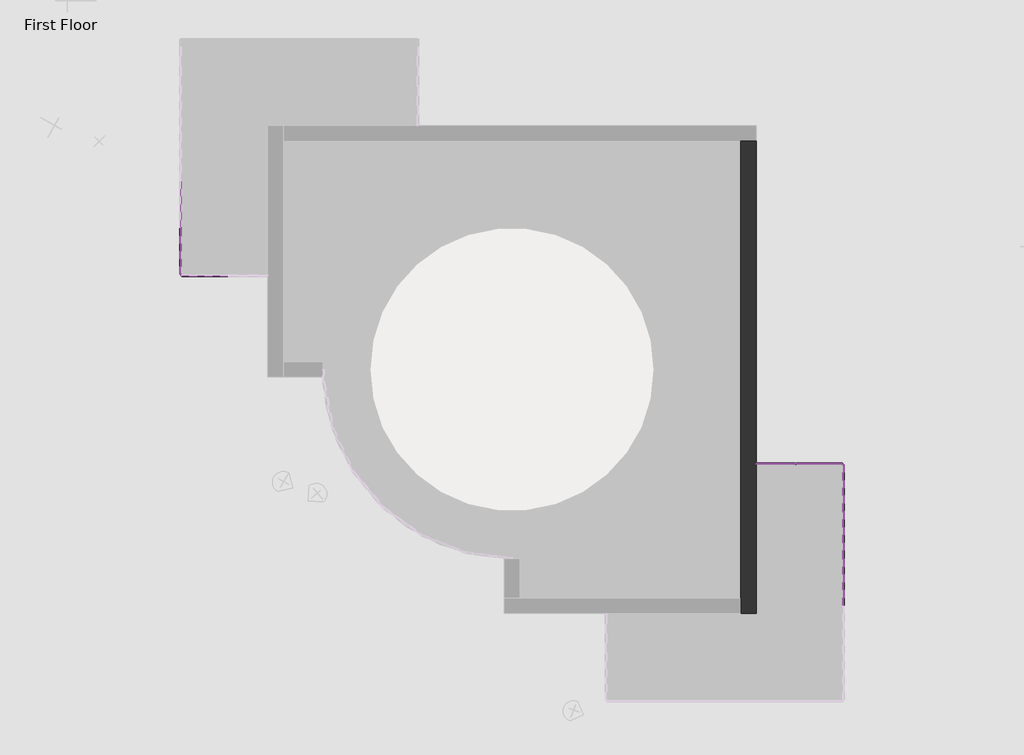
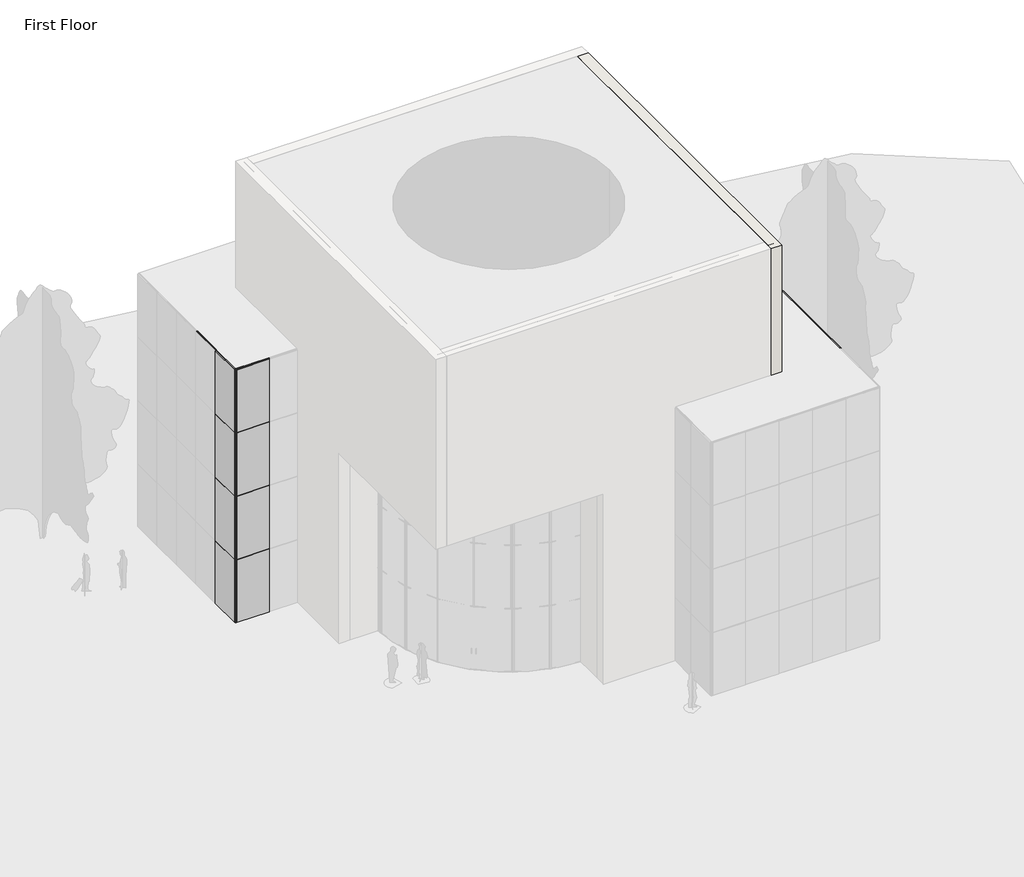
# One storey, part 3 of 5: 76 members, 28 plates, 1 wall.
"""IFC4 building model written with IfcOpenShell, lengths in millimetres."""

import ifcopenshell
import ifcopenshell.guid

model = None  # the IFC model being written
_history = None  # IfcOwnerHistory: only IFC2X3 demands one
_inside = {}  # id of a spatial element -> (the spatial element, [elements in it])
_under = {}  # id of a project, library or spatial element -> (it, [spatial elements below it])
_declared = {}  # id of a project -> (the project, [libraries it declares])
_typed = {}  # id of a type object -> (the type object, [elements of that type])
_made_of = {}  # id of a material, layer set ... -> (it, [elements and type objects made of it])


def new_model(schema):
    """Start an empty IFC model of exactly this schema.

    Asked for "IFC4X3", IfcOpenShell would pick the latest addendum, in which some entities
    have other attributes; the version numbers below select the first issue.
    IFC2X3 requires an IfcOwnerHistory on every rooted entity: one is made here for all.
    """
    global model, _history
    if schema == "IFC4X3":
        model = ifcopenshell.file(schema_version=(4, 3, 0, 0))
    else:
        model = ifcopenshell.file(schema=schema)
    _inside.clear()
    _under.clear()
    _declared.clear()
    _typed.clear()
    _made_of.clear()
    _history = None
    if model.schema == "IFC2X3":
        org = make("IfcOrganization", Name="unknown")
        user = make(
            "IfcPersonAndOrganization",
            ThePerson=make("IfcPerson", FamilyName="unknown"),
            TheOrganization=org,
        )
        app = make(
            "IfcApplication",
            ApplicationDeveloper=org,
            Version="unknown",
            ApplicationFullName="unknown",
            ApplicationIdentifier="unknown",
        )
        _history = make(
            "IfcOwnerHistory",
            OwningUser=user,
            OwningApplication=app,
            ChangeAction="ADDED",
            CreationDate=0,
        )
    return model


def make(cls, **values):
    """One entity of the class cls with the attributes given. An attribute that is None is left unset."""
    return model.create_entity(
        cls, **{name: value for name, value in values.items() if value is not None}
    )


def rooted(cls, **values):
    """An entity with a GlobalId (a new one), such as an element, a storey or a relation."""
    return make(cls, GlobalId=ifcopenshell.guid.new(), OwnerHistory=_history, **values)


def si_unit(unit_type, name, prefix=None):
    """IfcSIUnit, for example si_unit("LENGTHUNIT", "METRE", prefix="MILLI")."""
    return make("IfcSIUnit", UnitType=unit_type, Prefix=prefix, Name=name)


def assignment(units):
    """IfcUnitAssignment: the units of a project."""
    return None if units is None else make("IfcUnitAssignment", Units=units)


def point(xyz):
    """IfcCartesianPoint."""
    return None if xyz is None else make("IfcCartesianPoint", Coordinates=xyz)


def direction(xyz):
    """IfcDirection."""
    return None if xyz is None else make("IfcDirection", DirectionRatios=xyz)


def frame(location, z_axis=None, x_axis=None):
    """IfcAxis2Placement3D, a coordinate frame: its origin and axes. An axis left out is left unset."""
    return make(
        "IfcAxis2Placement3D",
        Location=point(location),
        Axis=direction(z_axis),
        RefDirection=direction(x_axis),
    )


def origin():
    """The frame at (0, 0, 0) with its axes left unset."""
    return frame((0.0, 0.0, 0.0))


def origin_with_axes():
    """The frame at (0, 0, 0) with the z axis (0, 0, 1) and the x axis (1, 0, 0) written out."""
    return frame((0.0, 0.0, 0.0), z_axis=(0.0, 0.0, 1.0), x_axis=(1.0, 0.0, 0.0))


def place(relative_to, where):
    """IfcLocalPlacement: puts the frame where relative to a parent placement (None: the world)."""
    return make(
        "IfcLocalPlacement", PlacementRelTo=relative_to, RelativePlacement=where
    )


def context(
    kind, dimensions, precision=None, world=None, true_north=None, identifier=None
):
    """IfcGeometricRepresentationContext, for example the 3D "Model" context."""
    return make(
        "IfcGeometricRepresentationContext",
        ContextIdentifier=identifier,
        ContextType=kind,
        CoordinateSpaceDimension=dimensions,
        Precision=precision,
        WorldCoordinateSystem=world,
        TrueNorth=true_north,
    )


def project(units=None, contexts=None):
    """IfcProject with its units and contexts."""
    return rooted(
        "IfcProject",
        Name="project",
        RepresentationContexts=contexts,
        UnitsInContext=assignment(units),
    )


def spatial(cls, under=None, at=None, **own):
    """A site, building, storey or space (cls), placed at a placement, below another one or the project."""
    s = rooted(cls, ObjectPlacement=at, **own)
    if under is not None:
        _under.setdefault(under.id(), (under, []))[1].append(s)
    return s


def polyline(points):
    """IfcPolyline through the points."""
    return make("IfcPolyline", Points=[point(p) for p in points])


def outline(outer, holes=None, kind="AREA"):
    """IfcArbitraryClosedProfileDef: a profile drawn as a closed curve; with holes, ...WithVoids."""
    if holes is None:
        return make("IfcArbitraryClosedProfileDef", ProfileType=kind, OuterCurve=outer)
    return make(
        "IfcArbitraryProfileDefWithVoids",
        ProfileType=kind,
        OuterCurve=outer,
        InnerCurves=holes,
    )


def extrude(swept, where, along, depth):
    """IfcExtrudedAreaSolid: the profile swept, set in the frame where, extruded along a direction by depth."""
    return make(
        "IfcExtrudedAreaSolid",
        SweptArea=swept,
        Position=where,
        ExtrudedDirection=direction(along),
        Depth=depth,
    )


def faces_of(points, faces, orient=None, outer=None):
    """IfcFace entities. A face is a list of loops; a loop is a list of indices into points, from 0.

    orient and outer hold one flag for each loop. By default every Orientation is true, the
    first loop of a face is its IfcFaceOuterBound and the others are IfcFaceBound.
    """
    made = []
    for i, loops in enumerate(faces):
        bounds = []
        for j, loop in enumerate(loops):
            is_outer = j == 0 if outer is None else outer[i][j]
            bounds.append(
                make(
                    "IfcFaceOuterBound" if is_outer else "IfcFaceBound",
                    Bound=make("IfcPolyLoop", Polygon=[points[k] for k in loop]),
                    Orientation=True if orient is None else orient[i][j],
                )
            )
        made.append(make("IfcFace", Bounds=bounds))
    return made


def faceted_brep(points, faces, orient=None, outer=None, voids=None):
    """IfcFacetedBrep: a solid bounded by flat faces; with voids (closed shells), ...WithVoids."""
    shared = [point(p) for p in points]
    hull = make("IfcClosedShell", CfsFaces=faces_of(shared, faces, orient, outer))
    if voids is None:
        return make("IfcFacetedBrep", Outer=hull)
    return make(
        "IfcFacetedBrepWithVoids",
        Outer=hull,
        Voids=[
            make(cls, CfsFaces=faces_of(shared, fs, o, b)) for cls, fs, o, b in voids
        ],
    )


def shape(context_of_items, identifier, shape_type, items):
    """IfcShapeRepresentation: the items that make up one representation, for example the "Body"."""
    return make(
        "IfcShapeRepresentation",
        ContextOfItems=context_of_items,
        RepresentationIdentifier=identifier,
        RepresentationType=shape_type,
        Items=items,
    )


def source(mapping_origin, context_of_items, identifier, shape_type, items):
    """IfcRepresentationMap: a shape defined once, which mapped items show again and again."""
    return make(
        "IfcRepresentationMap",
        MappingOrigin=mapping_origin,
        MappedRepresentation=shape(context_of_items, identifier, shape_type, items),
    )


def transform(
    local_origin,
    x_axis=None,
    y_axis=None,
    z_axis=None,
    scale=None,
    scale2=None,
    scale3=None,
    uniform=True,
):
    """IfcCartesianTransformationOperator3D, or its non-uniform kind. x_axis, y_axis, z_axis: its Axis1, 2, 3."""
    if uniform:
        return make(
            "IfcCartesianTransformationOperator3D",
            Axis1=direction(x_axis),
            Axis2=direction(y_axis),
            LocalOrigin=point(local_origin),
            Scale=scale,
            Axis3=direction(z_axis),
        )
    return make(
        "IfcCartesianTransformationOperator3DnonUniform",
        Axis1=direction(x_axis),
        Axis2=direction(y_axis),
        LocalOrigin=point(local_origin),
        Scale=scale,
        Axis3=direction(z_axis),
        Scale2=scale2,
        Scale3=scale3,
    )


def mapped(mapping_source, mapping_target):
    """IfcMappedItem: shows the shape of a source again, moved by a transform."""
    return make(
        "IfcMappedItem", MappingSource=mapping_source, MappingTarget=mapping_target
    )


def made_of(thing, what):
    """Note that an element or type object is made of a material, layer set ...; save() writes the relation."""
    if what is not None:
        _made_of.setdefault(what.id(), (what, []))[1].append(thing)
    return thing


def element(
    cls,
    number,
    at=None,
    inside=None,
    cuts=None,
    type_object=None,
    material=None,
    context=None,
    identifier="Body",
    shape_type=None,
    held_by="IfcProductDefinitionShape",
    body=None,
    shapes=None,
    **own,
):
    """One element of the class cls, such as IfcWall. Its Tag is "e" and its number.

    at: its placement. inside: the storey or other place that contains it. cuts: it is an
    opening in that element (IfcRelVoidsElement). A single representation is given by context,
    identifier, shape_type and body (its items); several are given by shapes. held_by: the class
    of the entity that holds the representations. save() writes the other relations.
    """
    e = rooted(cls, Tag="e%d" % number, ObjectPlacement=at, **own)
    if body is not None:
        shapes = [shape(context, identifier, shape_type, body)]
    if shapes is not None:
        e.Representation = make(held_by, Representations=shapes)
    if inside is not None:
        _inside.setdefault(inside.id(), (inside, []))[1].append(e)
    if cuts is not None:
        rooted(
            "IfcRelVoidsElement", RelatingBuildingElement=cuts, RelatedOpeningElement=e
        )
    if type_object is not None:
        _typed.setdefault(type_object.id(), (type_object, []))[1].append(e)
    return made_of(e, material)


def aggregate(whole, parts):
    """IfcRelAggregates: a whole, such as a stair, and the parts it consists of."""
    return rooted("IfcRelAggregates", RelatingObject=whole, RelatedObjects=parts)


def save(model, path):
    """Write the relations noted so far, then the file.

    IfcRelAggregates (storeys below a building ...), IfcRelContainedInSpatialStructure (elements
    in a storey), IfcRelDefinesByType, IfcRelAssociatesMaterial and IfcRelDeclares: one each for
    every whole, place, type object, material and project.
    """
    for whole, parts in _under.values():
        aggregate(whole, parts)
    for where, things in _inside.values():
        rooted(
            "IfcRelContainedInSpatialStructure",
            RelatedElements=things,
            RelatingStructure=where,
        )
    for kind, things in _typed.values():
        rooted("IfcRelDefinesByType", RelatedObjects=things, RelatingType=kind)
    for what, things in _made_of.values():
        rooted("IfcRelAssociatesMaterial", RelatedObjects=things, RelatingMaterial=what)
    for by, libraries in _declared.values():
        rooted("IfcRelDeclares", RelatingContext=by, RelatedDefinitions=libraries)
    model.write(path)


def member_40ce1a5c(model_context):
    return source(origin(), model_context, "Body", "SweptSolid", [
        extrude(outline(polyline([(12.7, 12.7), (12.7, -12.7), (-12.7, -12.7), (-12.7, 12.7), (12.7, 12.7)])), frame((0.0, 0.0, -1241.425), z_axis=(0.0, 0.0, 1.0), x_axis=(1.0, 0.0, 0.0)), (0.0, 0.0, 1.0), 1241.425),
    ])


def member_5e617a80(model_context):
    return source(origin(), model_context, "Body", "SweptSolid", [
        extrude(outline(polyline([(12.7, 12.7), (12.7, -12.7), (-12.7, -12.7), (-12.7, 12.7), (12.7, 12.7)])), frame((0.0, 0.0, -1485.9), z_axis=(0.0, 0.0, 1.0), x_axis=(1.0, 0.0, 0.0)), (0.0, 0.0, 1.0), 1485.9),
    ])


def member_0d8d9af5(model_context):
    return source(origin(), model_context, "Body", "SweptSolid", [
        extrude(outline(polyline([(0.0, 12.7), (0.0, -12.7), (-25.4, -12.7), (-25.4, 12.7), (0.0, 12.7)])), frame((0.0, 0.0, -1241.425), z_axis=(0.0, 0.0, 1.0), x_axis=(1.0, 0.0, 0.0)), (0.0, 0.0, 1.0), 1241.425),
    ])


def member_74941792(model_context):
    return source(origin(), model_context, "Body", "SweptSolid", [
        extrude(outline(polyline([(0.0, 12.7), (0.0, -12.7), (-25.4, -12.7), (-25.4, 12.7), (0.0, 12.7)])), frame((0.0, 0.0, -1485.9), z_axis=(0.0, 0.0, 1.0), x_axis=(1.0, 0.0, 0.0)), (0.0, 0.0, 1.0), 1485.9),
    ])


def member_cbdb9076(model_context):
    return source(origin(), model_context, "Body", "SweptSolid", [
        extrude(outline(polyline([(12.7, 12.7), (12.7, -12.7), (-12.7, -12.7), (-12.7, 12.7), (12.7, 12.7)])), frame((0.0, 0.0, -3048.0), z_axis=(0.0, 0.0, 1.0), x_axis=(1.0, 0.0, 0.0)), (0.0, 0.0, 1.0), 3048.0),
    ])


def member_7e523723(model_context):
    return source(origin(), model_context, "Body", "SweptSolid", [
        extrude(outline(polyline([(0.0, 12.7), (0.0, -12.7), (-25.4, -12.7), (-25.4, 12.7), (0.0, 12.7)])), frame((0.0, 0.0, -3048.0), z_axis=(0.0, 0.0, 1.0), x_axis=(1.0, 0.0, 0.0)), (0.0, 0.0, 1.0), 3048.0),
    ])


def member_9fd3d903(model_context):
    return source(origin(), model_context, "Body", "SweptSolid", [
        extrude(outline(polyline([(12.7, 12.7), (12.7, -12.7), (-12.7, -12.7), (-12.7, 12.7), (12.7, 12.7)])), frame((0.0, 0.0, -1498.6), z_axis=(0.0, 0.0, 1.0), x_axis=(1.0, 0.0, 0.0)), (0.0, 0.0, 1.0), 1498.6),
    ])


def member_6604d1e0(model_context):
    return source(origin(), model_context, "Body", "SweptSolid", [
        extrude(outline(polyline([(0.0, 12.7), (0.0, -12.7), (-25.4, -12.7), (-25.4, 12.7), (0.0, 12.7)])), frame((0.0, 0.0, -1498.6), z_axis=(0.0, 0.0, 1.0), x_axis=(1.0, 0.0, 0.0)), (0.0, 0.0, 1.0), 1498.6),
    ])


def system_panel_glazed_9b7d687a(model_context):
    return source(origin(), model_context, "Body", "SweptSolid", [
        extrude(outline(polyline([(742.95, -44.45), (-742.95, -44.45), (-742.95, -19.05), (742.95, -19.05), (742.95, -44.45)])), origin_with_axes(), (0.0, 0.0, 1.0), 3009.9),
    ])


def system_panel_glazed_3ccd4ad1(model_context):
    return source(origin(), model_context, "Body", "SweptSolid", [
        extrude(outline(polyline([(620.7125, -44.45), (-620.7125, -44.45), (-620.7125, -19.05), (620.7125, -19.05), (620.7125, -44.45)])), origin_with_axes(), (0.0, 0.0, 1.0), 3009.9),
    ])


def system_panel_glazed_9a901b4a(model_context):
    return source(origin(), model_context, "Body", "SweptSolid", [
        extrude(outline(polyline([(742.95, -44.45), (-742.95, -44.45), (-742.95, -19.05), (742.95, -19.05), (742.95, -44.45)])), origin_with_axes(), (0.0, 0.0, 1.0), 3022.6),
    ])


def system_panel_glazed_ee91e337(model_context):
    return source(origin(), model_context, "Body", "SweptSolid", [
        extrude(outline(polyline([(620.7125, -44.45), (-620.7125, -44.45), (-620.7125, -19.05), (620.7125, -19.05), (620.7125, -44.45)])), origin_with_axes(), (0.0, 0.0, 1.0), 3022.6),
    ])


def system_panel_glazed_2d5e1d3d(model_context):
    return source(origin(), model_context, "Body", "SweptSolid", [
        extrude(outline(polyline([(749.3, -44.45), (-749.3, -44.45), (-749.3, -19.05), (749.3, -19.05), (749.3, -44.45)])), origin_with_axes(), (0.0, 0.0, 1.0), 3009.9),
    ])


def system_panel_glazed_37964ea6(model_context):
    return source(origin(), model_context, "Body", "SweptSolid", [
        extrude(outline(polyline([(749.3, -44.45), (-749.3, -44.45), (-749.3, -19.05), (749.3, -19.05), (749.3, -44.45)])), origin_with_axes(), (0.0, 0.0, 1.0), 3022.6),
    ])


model = new_model("IFC4")

# Units and contexts
model_context = context("Model", 3, world=origin())
ifc_project = project(units=[si_unit("LENGTHUNIT", "METRE", prefix="MILLI")], contexts=[model_context])

# Site, building, storey
site = spatial("IfcSite", under=ifc_project)
building = spatial("IfcBuilding", under=site)
storey = spatial("IfcBuildingStorey", under=building, Name="First Floor", Elevation=0.0)

# Members
placement = place(None, origin())
member_shape = member_40ce1a5c(model_context)
element("IfcMember", 1, ObjectType="Rectangular Mullion : 1\" Square", at=placement, inside=storey, context=model_context, shape_type="MappedRepresentation", body=[
    mapped(member_shape, transform((5418.7693843, -3733.9860776, 3048.0), x_axis=(0.0, 0.0, 1.0), y_axis=(0.0, 1.0, 0.0), z_axis=(-1.0, 0.0, 0.0))),
])
element("IfcMember", 2, ObjectType="Rectangular Mullion : 1\" Square", at=placement, inside=storey, context=model_context, shape_type="MappedRepresentation", body=[
    mapped(member_shape, transform((5418.7693843, -3733.9860776, 6096.0), x_axis=(0.0, 0.0, 1.0), y_axis=(0.0, 1.0, 0.0), z_axis=(-1.0, 0.0, 0.0))),
])
element("IfcMember", 3, ObjectType="Rectangular Mullion : 1\" Square", at=placement, inside=storey, context=model_context, shape_type="MappedRepresentation", body=[
    mapped(member_shape, transform((5418.7693843, -3733.9860776, 9144.0), x_axis=(0.0, 0.0, 1.0), y_axis=(0.0, 1.0, 0.0), z_axis=(-1.0, 0.0, 0.0))),
])
member_2_shape = member_5e617a80(model_context)
element("IfcMember", 4, ObjectType="Rectangular Mullion : 1\" Square", at=placement, inside=storey, context=model_context, shape_type="MappedRepresentation", body=[
    mapped(member_2_shape, transform((-11627.8056157, 2362.0139224, 9144.0), x_axis=(0.0, 0.0, 1.0), y_axis=(0.0, -1.0, 0.0), z_axis=(1.0, 0.0, 0.0))),
])
element("IfcMember", 5, ObjectType="Rectangular Mullion : 1\" Square", at=placement, inside=storey, context=model_context, shape_type="MappedRepresentation", body=[
    mapped(member_2_shape, transform((-11627.8056157, 2362.0139224, 6096.0), x_axis=(0.0, 0.0, 1.0), y_axis=(0.0, -1.0, 0.0), z_axis=(1.0, 0.0, 0.0))),
])
element("IfcMember", 6, ObjectType="Rectangular Mullion : 1\" Square", at=placement, inside=storey, context=model_context, shape_type="MappedRepresentation", body=[
    mapped(member_2_shape, transform((-13139.1056157, 2387.4139224, 9144.0), x_axis=(0.0, 0.0, 1.0), y_axis=(-1.0, 0.0, 0.0), z_axis=(0.0, -1.0, 0.0))),
])
element("IfcMember", 7, ObjectType="Rectangular Mullion : 1\" Square", at=placement, inside=storey, context=model_context, shape_type="MappedRepresentation", body=[
    mapped(member_2_shape, transform((-13139.1056157, 2387.4139224, 3048.0), x_axis=(0.0, 0.0, 1.0), y_axis=(-1.0, 0.0, 0.0), z_axis=(0.0, -1.0, 0.0))),
])
element("IfcMember", 8, ObjectType="Rectangular Mullion : 1\" Square", at=placement, inside=storey, context=model_context, shape_type="MappedRepresentation", body=[
    mapped(member_2_shape, transform((-13139.1056157, 2387.4139224, 6096.0), x_axis=(0.0, 0.0, 1.0), y_axis=(-1.0, 0.0, 0.0), z_axis=(0.0, -1.0, 0.0))),
])
element("IfcMember", 9, ObjectType="Rectangular Mullion : 1\" Square", at=placement, inside=storey, context=model_context, shape_type="MappedRepresentation", body=[
    mapped(member_2_shape, transform((8196.8943843, -3759.3860776, 3048.0), x_axis=(0.0, 0.0, 1.0), y_axis=(1.0, 0.0, 0.0), z_axis=(0.0, 1.0, 0.0))),
])
element("IfcMember", 10, ObjectType="Rectangular Mullion : 1\" Square", at=placement, inside=storey, context=model_context, shape_type="MappedRepresentation", body=[
    mapped(member_2_shape, transform((8196.8943843, -3759.3860776, 6096.0), x_axis=(0.0, 0.0, 1.0), y_axis=(1.0, 0.0, 0.0), z_axis=(0.0, 1.0, 0.0))),
])
element("IfcMember", 11, ObjectType="Rectangular Mullion : 1\" Square", at=placement, inside=storey, context=model_context, shape_type="MappedRepresentation", body=[
    mapped(member_2_shape, transform((8196.8943843, -3759.3860776, 9144.0), x_axis=(0.0, 0.0, 1.0), y_axis=(1.0, 0.0, 0.0), z_axis=(0.0, 1.0, 0.0))),
])
element("IfcMember", 12, ObjectType="Rectangular Mullion : 1\" Square", at=placement, inside=storey, context=model_context, shape_type="MappedRepresentation", body=[
    mapped(member_2_shape, transform((6685.5943843, -3733.9860776, 3048.0), x_axis=(0.0, 0.0, 1.0), y_axis=(0.0, 1.0, 0.0), z_axis=(-1.0, 0.0, 0.0))),
])
element("IfcMember", 13, ObjectType="Rectangular Mullion : 1\" Square", at=placement, inside=storey, context=model_context, shape_type="MappedRepresentation", body=[
    mapped(member_2_shape, transform((6685.5943843, -3733.9860776, 6096.0), x_axis=(0.0, 0.0, 1.0), y_axis=(0.0, 1.0, 0.0), z_axis=(-1.0, 0.0, 0.0))),
])
element("IfcMember", 14, ObjectType="Rectangular Mullion : 1\" Square", at=placement, inside=storey, context=model_context, shape_type="MappedRepresentation", body=[
    mapped(member_2_shape, transform((6685.5943843, -3733.9860776, 9144.0), x_axis=(0.0, 0.0, 1.0), y_axis=(0.0, 1.0, 0.0), z_axis=(-1.0, 0.0, 0.0))),
])
member_3_shape = member_0d8d9af5(model_context)
element("IfcMember", 15, ObjectType="Rectangular Mullion : 1\" Square", at=placement, inside=storey, context=model_context, shape_type="MappedRepresentation", body=[
    mapped(member_3_shape, transform((-11602.4056157, 2362.0139224, 0.0), x_axis=(0.0, 0.0, -1.0), y_axis=(0.0, -1.0, 0.0), z_axis=(-1.0, 0.0, 0.0))),
])
element("IfcMember", 16, ObjectType="Rectangular Mullion : 1\" Square", at=placement, inside=storey, context=model_context, shape_type="MappedRepresentation", body=[
    mapped(member_3_shape, transform((6660.1943843, -3733.9860776, 0.0), x_axis=(0.0, 0.0, -1.0), y_axis=(0.0, 1.0, 0.0), z_axis=(1.0, 0.0, 0.0))),
])
member_4_shape = member_74941792(model_context)
element("IfcMember", 17, ObjectType="Rectangular Mullion : 1\" Square", at=placement, inside=storey, context=model_context, shape_type="MappedRepresentation", body=[
    mapped(member_4_shape, transform((-11627.8056157, 2362.0139224, 12192.0), x_axis=(0.0, 0.0, 1.0), y_axis=(0.0, -1.0, 0.0), z_axis=(1.0, 0.0, 0.0))),
])
element("IfcMember", 18, ObjectType="Rectangular Mullion : 1\" Square", at=placement, inside=storey, context=model_context, shape_type="MappedRepresentation", body=[
    mapped(member_4_shape, transform((-13139.1056157, 2387.4139224, 12192.0), x_axis=(0.0, 0.0, 1.0), y_axis=(-1.0, 0.0, 0.0), z_axis=(0.0, -1.0, 0.0))),
])
element("IfcMember", 19, ObjectType="Rectangular Mullion : 1\" Square", at=placement, inside=storey, context=model_context, shape_type="MappedRepresentation", body=[
    mapped(member_4_shape, transform((8196.8943843, -3759.3860776, 12192.0), x_axis=(0.0, 0.0, 1.0), y_axis=(1.0, 0.0, 0.0), z_axis=(0.0, 1.0, 0.0))),
])
element("IfcMember", 20, ObjectType="Rectangular Mullion : 1\" Square", at=placement, inside=storey, context=model_context, shape_type="MappedRepresentation", body=[
    mapped(member_4_shape, transform((6685.5943843, -3733.9860776, 12192.0), x_axis=(0.0, 0.0, 1.0), y_axis=(0.0, 1.0, 0.0), z_axis=(-1.0, 0.0, 0.0))),
])
member_5_shape = member_cbdb9076(model_context)
element("IfcMember", 21, ObjectType="Rectangular Mullion : 1\" Square", at=placement, inside=storey, context=model_context, shape_type="MappedRepresentation", body=[
    mapped(member_5_shape, transform((-11615.1056157, 2362.0139224, 3048.0), x_axis=(1.0, 0.0, 0.0), y_axis=(0.0, -1.0, 0.0), z_axis=(0.0, 0.0, -1.0))),
])
element("IfcMember", 22, ObjectType="Rectangular Mullion : 1\" Square", at=placement, inside=storey, context=model_context, shape_type="MappedRepresentation", body=[
    mapped(member_5_shape, transform((-11615.1056157, 2362.0139224, 6096.0), x_axis=(1.0, 0.0, 0.0), y_axis=(0.0, -1.0, 0.0), z_axis=(0.0, 0.0, -1.0))),
])
element("IfcMember", 23, ObjectType="Rectangular Mullion : 1\" Square", at=placement, inside=storey, context=model_context, shape_type="MappedRepresentation", body=[
    mapped(member_5_shape, transform((-13139.1056157, 3886.0139224, 3048.0), x_axis=(0.0, -1.0, 0.0), y_axis=(-1.0, 0.0, 0.0), z_axis=(0.0, 0.0, -1.0))),
])
element("IfcMember", 24, ObjectType="Rectangular Mullion : 1\" Square", at=placement, inside=storey, context=model_context, shape_type="MappedRepresentation", body=[
    mapped(member_5_shape, transform((-13139.1056157, 3886.0139224, 6096.0), x_axis=(0.0, -1.0, 0.0), y_axis=(-1.0, 0.0, 0.0), z_axis=(0.0, 0.0, -1.0))),
])
element("IfcMember", 25, ObjectType="Rectangular Mullion : 1\" Square", at=placement, inside=storey, context=model_context, shape_type="MappedRepresentation", body=[
    mapped(member_5_shape, transform((8196.8943843, -6781.9860776, 3048.0), x_axis=(0.0, 1.0, 0.0), y_axis=(1.0, 0.0, 0.0), z_axis=(0.0, 0.0, -1.0))),
])
element("IfcMember", 26, ObjectType="Rectangular Mullion : 1\" Square", at=placement, inside=storey, context=model_context, shape_type="MappedRepresentation", body=[
    mapped(member_5_shape, transform((8196.8943843, -6781.9860776, 6096.0), x_axis=(0.0, 1.0, 0.0), y_axis=(1.0, 0.0, 0.0), z_axis=(0.0, 0.0, -1.0))),
])
element("IfcMember", 27, ObjectType="Rectangular Mullion : 1\" Square", at=placement, inside=storey, context=model_context, shape_type="MappedRepresentation", body=[
    mapped(member_5_shape, transform((8196.8943843, -5257.9860776, 3048.0), x_axis=(0.0, 1.0, 0.0), y_axis=(1.0, 0.0, 0.0), z_axis=(0.0, 0.0, -1.0))),
])
element("IfcMember", 28, ObjectType="Rectangular Mullion : 1\" Square", at=placement, inside=storey, context=model_context, shape_type="MappedRepresentation", body=[
    mapped(member_5_shape, transform((8196.8943843, -5257.9860776, 6096.0), x_axis=(0.0, 1.0, 0.0), y_axis=(1.0, 0.0, 0.0), z_axis=(0.0, 0.0, -1.0))),
])
element("IfcMember", 29, ObjectType="Rectangular Mullion : 1\" Square", at=placement, inside=storey, context=model_context, shape_type="MappedRepresentation", body=[
    mapped(member_5_shape, transform((6672.8943843, -3733.9860776, 3048.0), x_axis=(-1.0, 0.0, 0.0), y_axis=(0.0, 1.0, 0.0), z_axis=(0.0, 0.0, -1.0))),
])
element("IfcMember", 30, ObjectType="Rectangular Mullion : 1\" Square", at=placement, inside=storey, context=model_context, shape_type="MappedRepresentation", body=[
    mapped(member_5_shape, transform((6672.8943843, -3733.9860776, 6096.0), x_axis=(-1.0, 0.0, 0.0), y_axis=(0.0, 1.0, 0.0), z_axis=(0.0, 0.0, -1.0))),
])
element("IfcMember", 31, ObjectType="Rectangular Mullion : 1\" Square", at=placement, inside=storey, context=model_context, shape_type="MappedRepresentation", body=[
    mapped(member_5_shape, transform((-11615.1056157, 2362.0139224, 9144.0), x_axis=(1.0, 0.0, 0.0), y_axis=(0.0, -1.0, 0.0), z_axis=(0.0, 0.0, -1.0))),
])
element("IfcMember", 32, ObjectType="Rectangular Mullion : 1\" Square", at=placement, inside=storey, context=model_context, shape_type="MappedRepresentation", body=[
    mapped(member_5_shape, transform((-13139.1056157, 3886.0139224, 9144.0), x_axis=(0.0, -1.0, 0.0), y_axis=(-1.0, 0.0, 0.0), z_axis=(0.0, 0.0, -1.0))),
])
element("IfcMember", 33, ObjectType="Rectangular Mullion : 1\" Square", at=placement, inside=storey, context=model_context, shape_type="MappedRepresentation", body=[
    mapped(member_5_shape, transform((8196.8943843, -6781.9860776, 9144.0), x_axis=(0.0, 1.0, 0.0), y_axis=(1.0, 0.0, 0.0), z_axis=(0.0, 0.0, -1.0))),
])
element("IfcMember", 34, ObjectType="Rectangular Mullion : 1\" Square", at=placement, inside=storey, context=model_context, shape_type="MappedRepresentation", body=[
    mapped(member_5_shape, transform((8196.8943843, -5257.9860776, 9144.0), x_axis=(0.0, 1.0, 0.0), y_axis=(1.0, 0.0, 0.0), z_axis=(0.0, 0.0, -1.0))),
])
element("IfcMember", 35, ObjectType="Rectangular Mullion : 1\" Square", at=placement, inside=storey, context=model_context, shape_type="MappedRepresentation", body=[
    mapped(member_5_shape, transform((6672.8943843, -3733.9860776, 9144.0), x_axis=(-1.0, 0.0, 0.0), y_axis=(0.0, 1.0, 0.0), z_axis=(0.0, 0.0, -1.0))),
])
element("IfcMember", 36, ObjectType="Rectangular Mullion : 1\" Square", at=placement, inside=storey, context=model_context, shape_type="MappedRepresentation", body=[
    mapped(member_5_shape, transform((-13139.1056157, 3886.0139224, 0.0), x_axis=(0.0, -1.0, 0.0), y_axis=(-1.0, 0.0, 0.0), z_axis=(0.0, 0.0, -1.0))),
])
element("IfcMember", 37, ObjectType="Rectangular Mullion : 1\" Square", at=placement, inside=storey, context=model_context, shape_type="MappedRepresentation", body=[
    mapped(member_5_shape, transform((8196.8943843, -6781.9860776, 0.0), x_axis=(0.0, 1.0, 0.0), y_axis=(1.0, 0.0, 0.0), z_axis=(0.0, 0.0, -1.0))),
])
element("IfcMember", 38, ObjectType="Rectangular Mullion : 1\" Square", at=placement, inside=storey, context=model_context, shape_type="MappedRepresentation", body=[
    mapped(member_5_shape, transform((8196.8943843, -5257.9860776, 0.0), x_axis=(0.0, 1.0, 0.0), y_axis=(1.0, 0.0, 0.0), z_axis=(0.0, 0.0, -1.0))),
])
element("IfcMember", 39, ObjectType="Rectangular Mullion : 1\" Square", at=placement, inside=storey, context=model_context, shape_type="MappedRepresentation", body=[
    mapped(member_5_shape, transform((6672.8943843, -3733.9860776, 0.0), x_axis=(-1.0, 0.0, 0.0), y_axis=(0.0, 1.0, 0.0), z_axis=(0.0, 0.0, -1.0))),
])
element("IfcMember", 40, ObjectType="Rectangular Mullion : 1\" Square", at=placement, inside=storey, context=model_context, shape_type="MappedRepresentation", body=[
    mapped(member_4_shape, transform((-13113.7056157, 2362.0139224, 0.0), x_axis=(0.0, 0.0, -1.0), y_axis=(0.0, -1.0, 0.0), z_axis=(-1.0, 0.0, 0.0))),
])
element("IfcMember", 41, ObjectType="Rectangular Mullion : 1\" Square", at=placement, inside=storey, context=model_context, shape_type="MappedRepresentation", body=[
    mapped(member_4_shape, transform((-13139.1056157, 3873.3139224, 0.0), x_axis=(0.0, 0.0, -1.0), y_axis=(-1.0, 0.0, 0.0), z_axis=(0.0, 1.0, 0.0))),
])
element("IfcMember", 42, ObjectType="Rectangular Mullion : 1\" Square", at=placement, inside=storey, context=model_context, shape_type="MappedRepresentation", body=[
    mapped(member_4_shape, transform((8196.8943843, -5245.2860776, 0.0), x_axis=(0.0, 0.0, -1.0), y_axis=(1.0, 0.0, 0.0), z_axis=(0.0, -1.0, 0.0))),
])
element("IfcMember", 43, ObjectType="Rectangular Mullion : 1\" Square", at=placement, inside=storey, context=model_context, shape_type="MappedRepresentation", body=[
    mapped(member_4_shape, transform((8171.4943843, -3733.9860776, 0.0), x_axis=(0.0, 0.0, -1.0), y_axis=(0.0, 1.0, 0.0), z_axis=(1.0, 0.0, 0.0))),
])
member_6_shape = member_7e523723(model_context)
element("IfcMember", 44, ObjectType="Rectangular Mullion : 1\" Square", at=placement, inside=storey, context=model_context, shape_type="MappedRepresentation", body=[
    mapped(member_6_shape, transform((-13139.1056157, 2362.0139224, 12192.0), x_axis=(-1.0, 0.0, 0.0), y_axis=(0.0, -1.0, 0.0), z_axis=(0.0, 0.0, 1.0))),
])
element("IfcMember", 45, ObjectType="Rectangular Mullion : 1\" Square", at=placement, inside=storey, context=model_context, shape_type="MappedRepresentation", body=[
    mapped(member_6_shape, transform((8196.8943843, -3733.9860776, 12192.0), x_axis=(1.0, 0.0, 0.0), y_axis=(0.0, 1.0, 0.0), z_axis=(0.0, 0.0, 1.0))),
])
element("IfcMember", 46, ObjectType="Rectangular Mullion : 1\" Square", at=placement, inside=storey, context=model_context, shape_type="MappedRepresentation", body=[
    mapped(member_6_shape, transform((-13139.1056157, 2362.0139224, 3048.0), x_axis=(0.0, -1.0, 0.0), y_axis=(-1.0, 0.0, 0.0), z_axis=(0.0, 0.0, -1.0))),
])
element("IfcMember", 47, ObjectType="Rectangular Mullion : 1\" Square", at=placement, inside=storey, context=model_context, shape_type="MappedRepresentation", body=[
    mapped(member_6_shape, transform((-13139.1056157, 2362.0139224, 6096.0), x_axis=(0.0, -1.0, 0.0), y_axis=(-1.0, 0.0, 0.0), z_axis=(0.0, 0.0, -1.0))),
])
element("IfcMember", 48, ObjectType="Rectangular Mullion : 1\" Square", at=placement, inside=storey, context=model_context, shape_type="MappedRepresentation", body=[
    mapped(member_6_shape, transform((8196.8943843, -3733.9860776, 3048.0), x_axis=(0.0, 1.0, 0.0), y_axis=(1.0, 0.0, 0.0), z_axis=(0.0, 0.0, -1.0))),
])
element("IfcMember", 49, ObjectType="Rectangular Mullion : 1\" Square", at=placement, inside=storey, context=model_context, shape_type="MappedRepresentation", body=[
    mapped(member_6_shape, transform((8196.8943843, -3733.9860776, 6096.0), x_axis=(0.0, 1.0, 0.0), y_axis=(1.0, 0.0, 0.0), z_axis=(0.0, 0.0, -1.0))),
])
element("IfcMember", 50, ObjectType="Rectangular Mullion : 1\" Square", at=placement, inside=storey, context=model_context, shape_type="MappedRepresentation", body=[
    mapped(member_6_shape, transform((5393.3693843, -3733.9860776, 3048.0), x_axis=(-1.0, 0.0, 0.0), y_axis=(0.0, 1.0, 0.0), z_axis=(0.0, 0.0, -1.0))),
])
element("IfcMember", 51, ObjectType="Rectangular Mullion : 1\" Square", at=placement, inside=storey, context=model_context, shape_type="MappedRepresentation", body=[
    mapped(member_6_shape, transform((5393.3693843, -3733.9860776, 6096.0), x_axis=(-1.0, 0.0, 0.0), y_axis=(0.0, 1.0, 0.0), z_axis=(0.0, 0.0, -1.0))),
])
element("IfcMember", 52, ObjectType="Rectangular Mullion : 1\" Square", at=placement, inside=storey, context=model_context, shape_type="MappedRepresentation", body=[
    mapped(member_6_shape, transform((-13139.1056157, 2362.0139224, 9144.0), x_axis=(0.0, -1.0, 0.0), y_axis=(-1.0, 0.0, 0.0), z_axis=(0.0, 0.0, -1.0))),
])
element("IfcMember", 53, ObjectType="Rectangular Mullion : 1\" Square", at=placement, inside=storey, context=model_context, shape_type="MappedRepresentation", body=[
    mapped(member_6_shape, transform((8196.8943843, -3733.9860776, 9144.0), x_axis=(0.0, 1.0, 0.0), y_axis=(1.0, 0.0, 0.0), z_axis=(0.0, 0.0, -1.0))),
])
element("IfcMember", 54, ObjectType="Rectangular Mullion : 1\" Square", at=placement, inside=storey, context=model_context, shape_type="MappedRepresentation", body=[
    mapped(member_6_shape, transform((5393.3693843, -3733.9860776, 9144.0), x_axis=(-1.0, 0.0, 0.0), y_axis=(0.0, 1.0, 0.0), z_axis=(0.0, 0.0, -1.0))),
])
element("IfcMember", 55, ObjectType="Rectangular Mullion : 1\" Square", at=placement, inside=storey, context=model_context, shape_type="MappedRepresentation", body=[
    mapped(member_6_shape, transform((-13139.1056157, 2362.0139224, 3048.0), x_axis=(-1.0, 0.0, 0.0), y_axis=(0.0, -1.0, 0.0), z_axis=(0.0, 0.0, 1.0))),
])
element("IfcMember", 56, ObjectType="Rectangular Mullion : 1\" Square", at=placement, inside=storey, context=model_context, shape_type="MappedRepresentation", body=[
    mapped(member_6_shape, transform((8196.8943843, -3733.9860776, 3048.0), x_axis=(1.0, 0.0, 0.0), y_axis=(0.0, 1.0, 0.0), z_axis=(0.0, 0.0, 1.0))),
])
element("IfcMember", 57, ObjectType="Rectangular Mullion : 1\" Square", at=placement, inside=storey, context=model_context, shape_type="MappedRepresentation", body=[
    mapped(member_6_shape, transform((-13139.1056157, 2362.0139224, 6096.0), x_axis=(-1.0, 0.0, 0.0), y_axis=(0.0, -1.0, 0.0), z_axis=(0.0, 0.0, 1.0))),
])
element("IfcMember", 58, ObjectType="Rectangular Mullion : 1\" Square", at=placement, inside=storey, context=model_context, shape_type="MappedRepresentation", body=[
    mapped(member_6_shape, transform((-13139.1056157, 2362.0139224, 9144.0), x_axis=(-1.0, 0.0, 0.0), y_axis=(0.0, -1.0, 0.0), z_axis=(0.0, 0.0, 1.0))),
])
element("IfcMember", 59, ObjectType="Rectangular Mullion : 1\" Square", at=placement, inside=storey, context=model_context, shape_type="MappedRepresentation", body=[
    mapped(member_6_shape, transform((8196.8943843, -3733.9860776, 6096.0), x_axis=(1.0, 0.0, 0.0), y_axis=(0.0, 1.0, 0.0), z_axis=(0.0, 0.0, 1.0))),
])
element("IfcMember", 60, ObjectType="Rectangular Mullion : 1\" Square", at=placement, inside=storey, context=model_context, shape_type="MappedRepresentation", body=[
    mapped(member_6_shape, transform((8196.8943843, -3733.9860776, 9144.0), x_axis=(1.0, 0.0, 0.0), y_axis=(0.0, 1.0, 0.0), z_axis=(0.0, 0.0, 1.0))),
])
element("IfcMember", 61, ObjectType="Rectangular Mullion : 1\" Square", at=placement, inside=storey, context=model_context, shape_type="MappedRepresentation", body=[
    mapped(member_6_shape, transform((-13139.1056157, 2362.0139224, 0.0), x_axis=(0.0, -1.0, 0.0), y_axis=(-1.0, 0.0, 0.0), z_axis=(0.0, 0.0, -1.0))),
])
element("IfcMember", 62, ObjectType="Rectangular Mullion : 1\" Square", at=placement, inside=storey, context=model_context, shape_type="MappedRepresentation", body=[
    mapped(member_6_shape, transform((8196.8943843, -3733.9860776, 0.0), x_axis=(0.0, 1.0, 0.0), y_axis=(1.0, 0.0, 0.0), z_axis=(0.0, 0.0, -1.0))),
])
element("IfcMember", 63, ObjectType="Rectangular Mullion : 1\" Square", at=placement, inside=storey, context=model_context, shape_type="MappedRepresentation", body=[
    mapped(member_6_shape, transform((5393.3693843, -3733.9860776, 0.0), x_axis=(-1.0, 0.0, 0.0), y_axis=(0.0, 1.0, 0.0), z_axis=(0.0, 0.0, -1.0))),
])
member_7_shape = member_9fd3d903(model_context)
element("IfcMember", 64, ObjectType="Rectangular Mullion : 1\" Square", at=placement, inside=storey, context=model_context, shape_type="MappedRepresentation", body=[
    mapped(member_7_shape, transform((-13139.1056157, 3898.7139224, 3048.0), x_axis=(0.0, 0.0, 1.0), y_axis=(-1.0, 0.0, 0.0), z_axis=(0.0, -1.0, 0.0))),
])
element("IfcMember", 65, ObjectType="Rectangular Mullion : 1\" Square", at=placement, inside=storey, context=model_context, shape_type="MappedRepresentation", body=[
    mapped(member_7_shape, transform((-13139.1056157, 3898.7139224, 6096.0), x_axis=(0.0, 0.0, 1.0), y_axis=(-1.0, 0.0, 0.0), z_axis=(0.0, -1.0, 0.0))),
])
element("IfcMember", 66, ObjectType="Rectangular Mullion : 1\" Square", at=placement, inside=storey, context=model_context, shape_type="MappedRepresentation", body=[
    mapped(member_7_shape, transform((-13139.1056157, 3898.7139224, 9144.0), x_axis=(0.0, 0.0, 1.0), y_axis=(-1.0, 0.0, 0.0), z_axis=(0.0, -1.0, 0.0))),
])
element("IfcMember", 67, ObjectType="Rectangular Mullion : 1\" Square", at=placement, inside=storey, context=model_context, shape_type="MappedRepresentation", body=[
    mapped(member_7_shape, transform((8196.8943843, -6794.6860776, 3048.0), x_axis=(0.0, 0.0, 1.0), y_axis=(1.0, 0.0, 0.0), z_axis=(0.0, 1.0, 0.0))),
])
element("IfcMember", 68, ObjectType="Rectangular Mullion : 1\" Square", at=placement, inside=storey, context=model_context, shape_type="MappedRepresentation", body=[
    mapped(member_7_shape, transform((8196.8943843, -5270.6860776, 3048.0), x_axis=(0.0, 0.0, 1.0), y_axis=(1.0, 0.0, 0.0), z_axis=(0.0, 1.0, 0.0))),
])
element("IfcMember", 69, ObjectType="Rectangular Mullion : 1\" Square", at=placement, inside=storey, context=model_context, shape_type="MappedRepresentation", body=[
    mapped(member_7_shape, transform((8196.8943843, -6794.6860776, 6096.0), x_axis=(0.0, 0.0, 1.0), y_axis=(1.0, 0.0, 0.0), z_axis=(0.0, 1.0, 0.0))),
])
element("IfcMember", 70, ObjectType="Rectangular Mullion : 1\" Square", at=placement, inside=storey, context=model_context, shape_type="MappedRepresentation", body=[
    mapped(member_7_shape, transform((8196.8943843, -5270.6860776, 6096.0), x_axis=(0.0, 0.0, 1.0), y_axis=(1.0, 0.0, 0.0), z_axis=(0.0, 1.0, 0.0))),
])
element("IfcMember", 71, ObjectType="Rectangular Mullion : 1\" Square", at=placement, inside=storey, context=model_context, shape_type="MappedRepresentation", body=[
    mapped(member_7_shape, transform((8196.8943843, -6794.6860776, 9144.0), x_axis=(0.0, 0.0, 1.0), y_axis=(1.0, 0.0, 0.0), z_axis=(0.0, 1.0, 0.0))),
])
element("IfcMember", 72, ObjectType="Rectangular Mullion : 1\" Square", at=placement, inside=storey, context=model_context, shape_type="MappedRepresentation", body=[
    mapped(member_7_shape, transform((8196.8943843, -5270.6860776, 9144.0), x_axis=(0.0, 0.0, 1.0), y_axis=(1.0, 0.0, 0.0), z_axis=(0.0, 1.0, 0.0))),
])
member_8_shape = member_6604d1e0(model_context)
element("IfcMember", 73, ObjectType="Rectangular Mullion : 1\" Square", at=placement, inside=storey, context=model_context, shape_type="MappedRepresentation", body=[
    mapped(member_8_shape, transform((-13139.1056157, 3898.7139224, 12192.0), x_axis=(0.0, 0.0, 1.0), y_axis=(-1.0, 0.0, 0.0), z_axis=(0.0, -1.0, 0.0))),
])
element("IfcMember", 74, ObjectType="Rectangular Mullion : 1\" Square", at=placement, inside=storey, context=model_context, shape_type="MappedRepresentation", body=[
    mapped(member_8_shape, transform((8196.8943843, -6794.6860776, 12192.0), x_axis=(0.0, 0.0, 1.0), y_axis=(1.0, 0.0, 0.0), z_axis=(0.0, 1.0, 0.0))),
])
element("IfcMember", 75, ObjectType="Rectangular Mullion : 1\" Square", at=placement, inside=storey, context=model_context, shape_type="MappedRepresentation", body=[
    mapped(member_8_shape, transform((8196.8943843, -5270.6860776, 12192.0), x_axis=(0.0, 0.0, 1.0), y_axis=(1.0, 0.0, 0.0), z_axis=(0.0, 1.0, 0.0))),
])
element("IfcMember", 76, ObjectType="Rectangular Mullion : 1\" Square", at=placement, inside=storey, context=model_context, shape_type="MappedRepresentation", body=[
    mapped(member_8_shape, transform((8196.8943843, -6769.2860776, 0.0), x_axis=(0.0, 0.0, -1.0), y_axis=(1.0, 0.0, 0.0), z_axis=(0.0, -1.0, 0.0))),
])

# Plates
system_panel_glazed_shape = system_panel_glazed_9b7d687a(model_context)
element("IfcPlate", 77, ObjectType="System Panel : Glazed", at=placement, inside=storey, context=model_context, shape_type="MappedRepresentation", body=[
    mapped(system_panel_glazed_shape, transform((-13139.1056157, 3130.3639224, 25.4), x_axis=(0.0, -1.0, 0.0), y_axis=(1.0, 0.0, 0.0), z_axis=(0.0, 0.0, 1.0))),
])
element("IfcPlate", 78, ObjectType="System Panel : Glazed", at=placement, inside=storey, context=model_context, shape_type="MappedRepresentation", body=[
    mapped(system_panel_glazed_shape, transform((-13139.1056157, 3130.3639224, 9156.7), x_axis=(0.0, -1.0, 0.0), y_axis=(1.0, 0.0, 0.0), z_axis=(0.0, 0.0, 1.0))),
])
element("IfcPlate", 79, ObjectType="System Panel : Glazed", at=placement, inside=storey, context=model_context, shape_type="MappedRepresentation", body=[
    mapped(system_panel_glazed_shape, transform((-12370.7556157, 2362.0139224, 25.4), x_axis=(1.0, 0.0, 0.0), y_axis=(0.0, 1.0, 0.0), z_axis=(0.0, 0.0, 1.0))),
])
element("IfcPlate", 80, ObjectType="System Panel : Glazed", at=placement, inside=storey, context=model_context, shape_type="MappedRepresentation", body=[
    mapped(system_panel_glazed_shape, transform((-12370.7556157, 2362.0139224, 9156.7), x_axis=(1.0, 0.0, 0.0), y_axis=(0.0, 1.0, 0.0), z_axis=(0.0, 0.0, 1.0))),
])
element("IfcPlate", 81, ObjectType="System Panel : Glazed", at=placement, inside=storey, context=model_context, shape_type="MappedRepresentation", body=[
    mapped(system_panel_glazed_shape, transform((8196.8943843, -4502.3360776, 25.4), x_axis=(0.0, 1.0, 0.0), y_axis=(-1.0, 0.0, 0.0), z_axis=(0.0, 0.0, 1.0))),
])
element("IfcPlate", 82, ObjectType="System Panel : Glazed", at=placement, inside=storey, context=model_context, shape_type="MappedRepresentation", body=[
    mapped(system_panel_glazed_shape, transform((8196.8943843, -4502.3360776, 9156.7), x_axis=(0.0, 1.0, 0.0), y_axis=(-1.0, 0.0, 0.0), z_axis=(0.0, 0.0, 1.0))),
])
element("IfcPlate", 83, ObjectType="System Panel : Glazed", at=placement, inside=storey, context=model_context, shape_type="MappedRepresentation", body=[
    mapped(system_panel_glazed_shape, transform((7428.5443843, -3733.9860776, 25.4), x_axis=(-1.0, 0.0, 0.0), y_axis=(0.0, -1.0, 0.0), z_axis=(0.0, 0.0, 1.0))),
])
element("IfcPlate", 84, ObjectType="System Panel : Glazed", at=placement, inside=storey, context=model_context, shape_type="MappedRepresentation", body=[
    mapped(system_panel_glazed_shape, transform((7428.5443843, -3733.9860776, 9156.7), x_axis=(-1.0, 0.0, 0.0), y_axis=(0.0, -1.0, 0.0), z_axis=(0.0, 0.0, 1.0))),
])
system_panel_glazed_2_shape = system_panel_glazed_3ccd4ad1(model_context)
element("IfcPlate", 85, ObjectType="System Panel : Glazed", at=placement, inside=storey, context=model_context, shape_type="MappedRepresentation", body=[
    mapped(system_panel_glazed_2_shape, transform((6039.4818843, -3733.9860776, 25.4), x_axis=(-1.0, 0.0, 0.0), y_axis=(0.0, -1.0, 0.0), z_axis=(0.0, 0.0, 1.0))),
])
element("IfcPlate", 86, ObjectType="System Panel : Glazed", at=placement, inside=storey, context=model_context, shape_type="MappedRepresentation", body=[
    mapped(system_panel_glazed_2_shape, transform((6039.4818843, -3733.9860776, 9156.7), x_axis=(-1.0, 0.0, 0.0), y_axis=(0.0, -1.0, 0.0), z_axis=(0.0, 0.0, 1.0))),
])
system_panel_glazed_3_shape = system_panel_glazed_9a901b4a(model_context)
element("IfcPlate", 87, ObjectType="System Panel : Glazed", at=placement, inside=storey, context=model_context, shape_type="MappedRepresentation", body=[
    mapped(system_panel_glazed_3_shape, transform((-13139.1056157, 3130.3639224, 3060.7), x_axis=(0.0, -1.0, 0.0), y_axis=(1.0, 0.0, 0.0), z_axis=(0.0, 0.0, 1.0))),
])
element("IfcPlate", 88, ObjectType="System Panel : Glazed", at=placement, inside=storey, context=model_context, shape_type="MappedRepresentation", body=[
    mapped(system_panel_glazed_3_shape, transform((-13139.1056157, 3130.3639224, 6108.7), x_axis=(0.0, -1.0, 0.0), y_axis=(1.0, 0.0, 0.0), z_axis=(0.0, 0.0, 1.0))),
])
element("IfcPlate", 89, ObjectType="System Panel : Glazed", at=placement, inside=storey, context=model_context, shape_type="MappedRepresentation", body=[
    mapped(system_panel_glazed_3_shape, transform((-12370.7556157, 2362.0139224, 3060.7), x_axis=(1.0, 0.0, 0.0), y_axis=(0.0, 1.0, 0.0), z_axis=(0.0, 0.0, 1.0))),
])
element("IfcPlate", 90, ObjectType="System Panel : Glazed", at=placement, inside=storey, context=model_context, shape_type="MappedRepresentation", body=[
    mapped(system_panel_glazed_3_shape, transform((-12370.7556157, 2362.0139224, 6108.7), x_axis=(1.0, 0.0, 0.0), y_axis=(0.0, 1.0, 0.0), z_axis=(0.0, 0.0, 1.0))),
])
element("IfcPlate", 91, ObjectType="System Panel : Glazed", at=placement, inside=storey, context=model_context, shape_type="MappedRepresentation", body=[
    mapped(system_panel_glazed_3_shape, transform((8196.8943843, -4502.3360776, 3060.7), x_axis=(0.0, 1.0, 0.0), y_axis=(-1.0, 0.0, 0.0), z_axis=(0.0, 0.0, 1.0))),
])
element("IfcPlate", 92, ObjectType="System Panel : Glazed", at=placement, inside=storey, context=model_context, shape_type="MappedRepresentation", body=[
    mapped(system_panel_glazed_3_shape, transform((8196.8943843, -4502.3360776, 6108.7), x_axis=(0.0, 1.0, 0.0), y_axis=(-1.0, 0.0, 0.0), z_axis=(0.0, 0.0, 1.0))),
])
element("IfcPlate", 93, ObjectType="System Panel : Glazed", at=placement, inside=storey, context=model_context, shape_type="MappedRepresentation", body=[
    mapped(system_panel_glazed_3_shape, transform((7428.5443843, -3733.9860776, 3060.7), x_axis=(-1.0, 0.0, 0.0), y_axis=(0.0, -1.0, 0.0), z_axis=(0.0, 0.0, 1.0))),
])
element("IfcPlate", 94, ObjectType="System Panel : Glazed", at=placement, inside=storey, context=model_context, shape_type="MappedRepresentation", body=[
    mapped(system_panel_glazed_3_shape, transform((7428.5443843, -3733.9860776, 6108.7), x_axis=(-1.0, 0.0, 0.0), y_axis=(0.0, -1.0, 0.0), z_axis=(0.0, 0.0, 1.0))),
])
system_panel_glazed_4_shape = system_panel_glazed_ee91e337(model_context)
element("IfcPlate", 95, ObjectType="System Panel : Glazed", at=placement, inside=storey, context=model_context, shape_type="MappedRepresentation", body=[
    mapped(system_panel_glazed_4_shape, transform((6039.4818843, -3733.9860776, 3060.7), x_axis=(-1.0, 0.0, 0.0), y_axis=(0.0, -1.0, 0.0), z_axis=(0.0, 0.0, 1.0))),
])
element("IfcPlate", 96, ObjectType="System Panel : Glazed", at=placement, inside=storey, context=model_context, shape_type="MappedRepresentation", body=[
    mapped(system_panel_glazed_4_shape, transform((6039.4818843, -3733.9860776, 6108.7), x_axis=(-1.0, 0.0, 0.0), y_axis=(0.0, -1.0, 0.0), z_axis=(0.0, 0.0, 1.0))),
])
system_panel_glazed_5_shape = system_panel_glazed_2d5e1d3d(model_context)
element("IfcPlate", 97, ObjectType="System Panel : Glazed", at=placement, inside=storey, context=model_context, shape_type="MappedRepresentation", body=[
    mapped(system_panel_glazed_5_shape, transform((8196.8943843, -7543.9860776, 25.4), x_axis=(0.0, 1.0, 0.0), y_axis=(-1.0, 0.0, 0.0), z_axis=(0.0, 0.0, 1.0))),
])
element("IfcPlate", 98, ObjectType="System Panel : Glazed", at=placement, inside=storey, context=model_context, shape_type="MappedRepresentation", body=[
    mapped(system_panel_glazed_5_shape, transform((8196.8943843, -6019.9860776, 25.4), x_axis=(0.0, 1.0, 0.0), y_axis=(-1.0, 0.0, 0.0), z_axis=(0.0, 0.0, 1.0))),
])
element("IfcPlate", 99, ObjectType="System Panel : Glazed", at=placement, inside=storey, context=model_context, shape_type="MappedRepresentation", body=[
    mapped(system_panel_glazed_5_shape, transform((8196.8943843, -7543.9860776, 9156.7), x_axis=(0.0, 1.0, 0.0), y_axis=(-1.0, 0.0, 0.0), z_axis=(0.0, 0.0, 1.0))),
])
element("IfcPlate", 100, ObjectType="System Panel : Glazed", at=placement, inside=storey, context=model_context, shape_type="MappedRepresentation", body=[
    mapped(system_panel_glazed_5_shape, transform((8196.8943843, -6019.9860776, 9156.7), x_axis=(0.0, 1.0, 0.0), y_axis=(-1.0, 0.0, 0.0), z_axis=(0.0, 0.0, 1.0))),
])
system_panel_glazed_6_shape = system_panel_glazed_37964ea6(model_context)
element("IfcPlate", 101, ObjectType="System Panel : Glazed", at=placement, inside=storey, context=model_context, shape_type="MappedRepresentation", body=[
    mapped(system_panel_glazed_6_shape, transform((8196.8943843, -7543.9860776, 3060.7), x_axis=(0.0, 1.0, 0.0), y_axis=(-1.0, 0.0, 0.0), z_axis=(0.0, 0.0, 1.0))),
])
element("IfcPlate", 102, ObjectType="System Panel : Glazed", at=placement, inside=storey, context=model_context, shape_type="MappedRepresentation", body=[
    mapped(system_panel_glazed_6_shape, transform((8196.8943843, -6019.9860776, 3060.7), x_axis=(0.0, 1.0, 0.0), y_axis=(-1.0, 0.0, 0.0), z_axis=(0.0, 0.0, 1.0))),
])
element("IfcPlate", 103, ObjectType="System Panel : Glazed", at=placement, inside=storey, context=model_context, shape_type="MappedRepresentation", body=[
    mapped(system_panel_glazed_6_shape, transform((8196.8943843, -7543.9860776, 6108.7), x_axis=(0.0, 1.0, 0.0), y_axis=(-1.0, 0.0, 0.0), z_axis=(0.0, 0.0, 1.0))),
])
element("IfcPlate", 104, ObjectType="System Panel : Glazed", at=placement, inside=storey, context=model_context, shape_type="MappedRepresentation", body=[
    mapped(system_panel_glazed_6_shape, transform((8196.8943843, -6019.9860776, 6108.7), x_axis=(0.0, 1.0, 0.0), y_axis=(-1.0, 0.0, 0.0), z_axis=(0.0, 0.0, 1.0))),
])

# Wall
element("IfcWall", 105, ObjectType="Exterior - Brick on CMU", at=placement, inside=storey, context=model_context, shape_type="Brep", body=[
    faceted_brep([(5393.3693843, -8550.4610776, 0.0), (5393.3693843, 6683.1889224, 0.0), (5393.3693843, 6683.1889224, 18288.0), (5393.3693843, -8550.4610776, 18288.0), (4898.0693843, -8550.4610776, 0.0), (4898.0693843, -8550.4610776, 18288.0), (4898.0693843, -8055.1610776, 18288.0), (4898.0693843, 6683.1889224, 18288.0), (4898.0693843, 6683.1889224, 0.0), (4898.0693843, -8055.1610776, 0.0)], [[[0, 1, 2, 3]], [[4, 5, 6, 7, 8, 9]], [[1, 0, 4, 9, 8]], [[3, 2, 7, 6, 5]], [[0, 3, 5, 4]], [[2, 1, 8, 7]]]),
])

save(model, "model.ifc")
